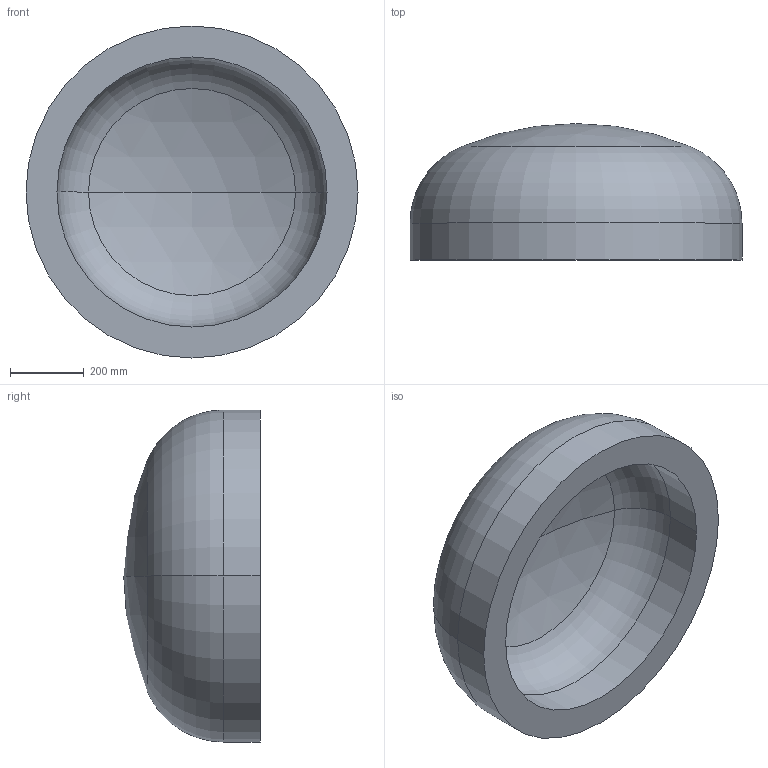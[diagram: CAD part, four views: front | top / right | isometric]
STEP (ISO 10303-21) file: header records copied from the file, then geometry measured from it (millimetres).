
FILE_DESCRIPTION (( 'STEP AP203' ), '1' );
FILE_NAME ('DIN 28013 Korbbogenform_-_Boden DIN 28013 - 900 x 100 - I - s=84.step', '2016-07-01T08:36:54', ( '' ), ( '' ), 'SwSTEP 2.0', 'SolidWorks 2013', '' );
FILE_SCHEMA (( 'CONFIG_CONTROL_DESIGN' ));
Length unit declared in the file: millimetre
Products named in the file (1): DIN 28013 Korbbogenform_-_Boden DIN 28013 - 900 x 100 - I - s=84
Bounding box: 900 x 369.84 x 900 mm (x, y, z)
Volume: 87577963.8 mm3; surface area: 2315304.7 mm2
Topology: 1 solids, 1 shells, 13 faces, 24 edges, 14 vertices
Faces by surface type: torus 4, cylinder 4, sphere 4, plane 1
Entity records: 407 total; most frequent: DIRECTION 72, CARTESIAN_POINT 52, ORIENTED_EDGE 48, AXIS2_PLACEMENT_3D 34, EDGE_CURVE 24, CIRCLE 20, EDGE_LOOP 14, VERTEX_POINT 14
